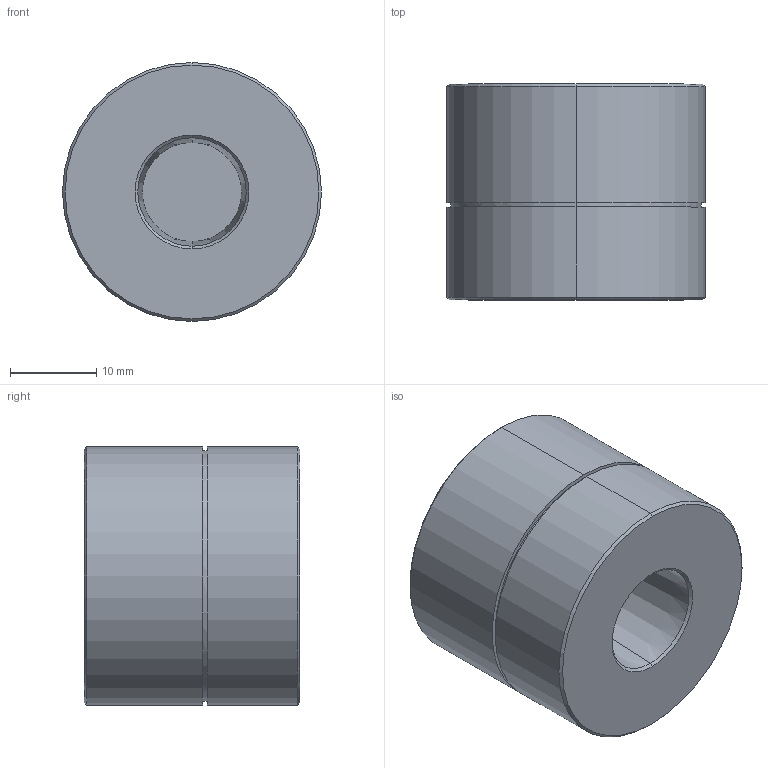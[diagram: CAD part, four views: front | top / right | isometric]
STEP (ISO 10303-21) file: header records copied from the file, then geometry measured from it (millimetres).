
FILE_DESCRIPTION (( 'STEP AP203' ), '1' );
FILE_NAME ('SW-PB-F12-T.STEP', '2022-04-15T06:59:06', ( '' ), ( '' ), 'SwSTEP 2.0', 'SolidWorks 2015', '' );
FILE_SCHEMA (( 'CONFIG_CONTROL_DESIGN' ));
Length unit declared in the file: millimetre
Products named in the file (2): SW-PB-F12-T
Bounding box: 30 x 25 x 30 mm (x, y, z)
Volume: 16382.6 mm3; surface area: 4217.4 mm2
Topology: 1 solids, 1 shells, 19 faces, 36 edges, 22 vertices
Faces by surface type: cone 8, cylinder 6, plane 5
Entity records: 727 total; most frequent: CARTESIAN_POINT 179, DIRECTION 92, ORIENTED_EDGE 72, AXIS2_PLACEMENT_3D 39, EDGE_CURVE 36, EDGE_LOOP 22, VERTEX_POINT 22, FACE_OUTER_BOUND 19
